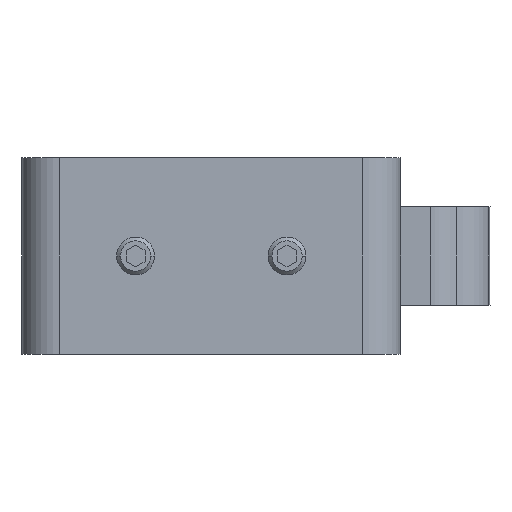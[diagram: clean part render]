
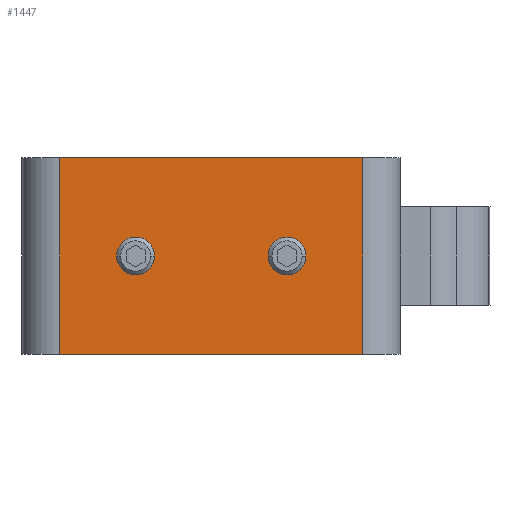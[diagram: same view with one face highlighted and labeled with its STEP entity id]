
A CAD part, left-side view. The second image highlights one B-rep face of the part: STEP entity #1447.
In plain terms, the highlighted planar face has unit normal (-1, 0, 0).
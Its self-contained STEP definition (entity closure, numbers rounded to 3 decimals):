
#20 = LINE ( 'NONE', #2033, #3218 ) ;
#141 = VERTEX_POINT ( 'NONE', #5232 ) ;
#212 = EDGE_CURVE ( 'NONE', #4448, #4952, #4029, .T. ) ;
#250 = DIRECTION ( 'NONE',  ( 0., 0., 1. ) ) ;
#324 = DIRECTION ( 'NONE',  ( 0., 0., 1. ) ) ;
#496 = VERTEX_POINT ( 'NONE', #6080 ) ;
#534 = EDGE_CURVE ( 'NONE', #141, #855, #20, .T. ) ;
#680 = CARTESIAN_POINT ( 'NONE',  ( -20., 10., 10.5 ) ) ;
#855 = VERTEX_POINT ( 'NONE', #2958 ) ;
#901 = AXIS2_PLACEMENT_3D ( 'NONE', #6323, #1292, #324 ) ;
#978 = VERTEX_POINT ( 'NONE', #3270 ) ;
#1292 = DIRECTION ( 'NONE',  ( -1., 0., 0. ) ) ;
#1302 = EDGE_CURVE ( 'NONE', #978, #1390, #3961, .T. ) ;
#1390 = VERTEX_POINT ( 'NONE', #680 ) ;
#1447 = ADVANCED_FACE ( 'NONE', ( #2140, #3746, #4211 ), #3225, .F. ) ;
#1583 = EDGE_CURVE ( 'NONE', #4952, #4448, #4912, .T. ) ;
#1644 = EDGE_CURVE ( 'NONE', #1390, #978, #5115, .T. ) ;
#1709 = AXIS2_PLACEMENT_3D ( 'NONE', #2242, #4243, #5297 ) ;
#1740 = AXIS2_PLACEMENT_3D ( 'NONE', #4240, #2731, #4141 ) ;
#1747 = AXIS2_PLACEMENT_3D ( 'NONE', #5422, #4766, #6286 ) ;
#1748 = CARTESIAN_POINT ( 'NONE',  ( -20., -20., 0. ) ) ;
#1978 = CARTESIAN_POINT ( 'NONE',  ( -20., -25., 26. ) ) ;
#2033 = CARTESIAN_POINT ( 'NONE',  ( -20., 20., 26. ) ) ;
#2140 = FACE_BOUND ( 'NONE', #3637, .T. ) ;
#2242 = CARTESIAN_POINT ( 'NONE',  ( -20., -10., 13. ) ) ;
#2250 = ORIENTED_EDGE ( 'NONE', *, *, #1302, .F. ) ;
#2421 = ORIENTED_EDGE ( 'NONE', *, *, #6221, .T. ) ;
#2543 = CARTESIAN_POINT ( 'NONE',  ( -20., 10., 13. ) ) ;
#2731 = DIRECTION ( 'NONE',  ( 1., 0., 0. ) ) ;
#2904 = EDGE_LOOP ( 'NONE', ( #2250, #5881 ) ) ;
#2954 = ORIENTED_EDGE ( 'NONE', *, *, #212, .F. ) ;
#2958 = CARTESIAN_POINT ( 'NONE',  ( -20., 20., 0. ) ) ;
#2984 = ORIENTED_EDGE ( 'NONE', *, *, #1583, .F. ) ;
#3122 = LINE ( 'NONE', #4268, #5992 ) ;
#3218 = VECTOR ( 'NONE', #6116, 1000. ) ;
#3225 = PLANE ( 'NONE',  #1740 ) ;
#3270 = CARTESIAN_POINT ( 'NONE',  ( -20., 10., 15.5 ) ) ;
#3341 = LINE ( 'NONE', #4849, #5789 ) ;
#3531 = CARTESIAN_POINT ( 'NONE',  ( -20., -10., 10.5 ) ) ;
#3637 = EDGE_LOOP ( 'NONE', ( #2984, #2954 ) ) ;
#3746 = FACE_BOUND ( 'NONE', #2904, .T. ) ;
#3961 = CIRCLE ( 'NONE', #4906, 2.5 ) ;
#4029 = CIRCLE ( 'NONE', #1709, 2.5 ) ;
#4141 = DIRECTION ( 'NONE',  ( 0., 0., -1. ) ) ;
#4211 = FACE_OUTER_BOUND ( 'NONE', #5710, .T. ) ;
#4240 = CARTESIAN_POINT ( 'NONE',  ( -20., -25., 26. ) ) ;
#4243 = DIRECTION ( 'NONE',  ( -1., 0., 0. ) ) ;
#4268 = CARTESIAN_POINT ( 'NONE',  ( -20., -20., 26. ) ) ;
#4412 = EDGE_CURVE ( 'NONE', #141, #496, #5037, .T. ) ;
#4448 = VERTEX_POINT ( 'NONE', #3531 ) ;
#4509 = DIRECTION ( 'NONE',  ( 0., 0., 1. ) ) ;
#4557 = ORIENTED_EDGE ( 'NONE', *, *, #534, .T. ) ;
#4605 = DIRECTION ( 'NONE',  ( -1., 0., 0. ) ) ;
#4766 = DIRECTION ( 'NONE',  ( -1., 0., 0. ) ) ;
#4778 = DIRECTION ( 'NONE',  ( 0., -1., 0. ) ) ;
#4809 = ORIENTED_EDGE ( 'NONE', *, *, #4412, .F. ) ;
#4849 = CARTESIAN_POINT ( 'NONE',  ( -20., -25., 0. ) ) ;
#4906 = AXIS2_PLACEMENT_3D ( 'NONE', #2543, #4605, #4509 ) ;
#4912 = CIRCLE ( 'NONE', #901, 2.5 ) ;
#4952 = VERTEX_POINT ( 'NONE', #5341 ) ;
#5002 = DIRECTION ( 'NONE',  ( 0., -1., 0. ) ) ;
#5037 = LINE ( 'NONE', #1978, #5659 ) ;
#5115 = CIRCLE ( 'NONE', #1747, 2.5 ) ;
#5232 = CARTESIAN_POINT ( 'NONE',  ( -20., 20., 26. ) ) ;
#5297 = DIRECTION ( 'NONE',  ( 0., 0., 1. ) ) ;
#5341 = CARTESIAN_POINT ( 'NONE',  ( -20., -10., 15.5 ) ) ;
#5422 = CARTESIAN_POINT ( 'NONE',  ( -20., 10., 13. ) ) ;
#5645 = ORIENTED_EDGE ( 'NONE', *, *, #5831, .T. ) ;
#5659 = VECTOR ( 'NONE', #5002, 1000. ) ;
#5710 = EDGE_LOOP ( 'NONE', ( #4809, #4557, #2421, #5645 ) ) ;
#5789 = VECTOR ( 'NONE', #4778, 1000. ) ;
#5831 = EDGE_CURVE ( 'NONE', #6340, #496, #3122, .T. ) ;
#5881 = ORIENTED_EDGE ( 'NONE', *, *, #1644, .F. ) ;
#5992 = VECTOR ( 'NONE', #250, 1000. ) ;
#6080 = CARTESIAN_POINT ( 'NONE',  ( -20., -20., 26. ) ) ;
#6116 = DIRECTION ( 'NONE',  ( 0., 0., -1. ) ) ;
#6221 = EDGE_CURVE ( 'NONE', #855, #6340, #3341, .T. ) ;
#6286 = DIRECTION ( 'NONE',  ( 0., 0., 1. ) ) ;
#6323 = CARTESIAN_POINT ( 'NONE',  ( -20., -10., 13. ) ) ;
#6340 = VERTEX_POINT ( 'NONE', #1748 ) ;
